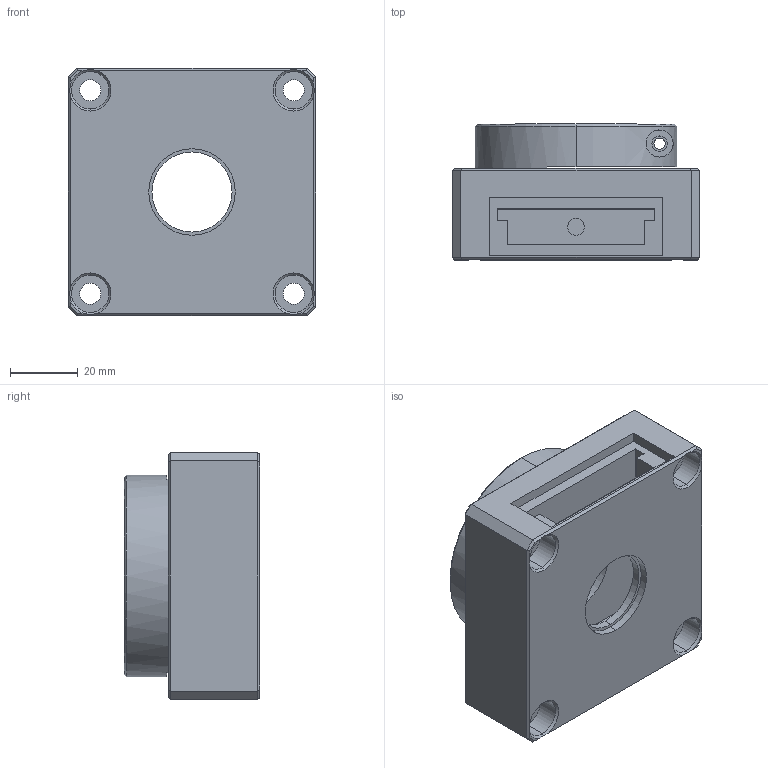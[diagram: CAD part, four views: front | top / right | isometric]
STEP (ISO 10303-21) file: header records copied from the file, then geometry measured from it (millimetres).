
FILE_DESCRIPTION (( 'STEP AP214' ), '1' );
FILE_NAME ('2019_miCube_Thorlabs Tube Lens holder Assembly.STEP', '2019-05-27T07:35:56', ( '' ), ( '' ), 'SwSTEP 2.0', 'SolidWorks 2017', '' );
FILE_SCHEMA (( 'AUTOMOTIVE_DESIGN' ));
Length unit declared in the file: millimetre
Products named in the file (2): 2019_miCube_Thorlabs Tube Lens holder Assembly; Tube Lens Holder Thorlabs
Assembly tree (1 placements, depth 2):
  2019_miCube_Thorlabs Tube Lens holder Assembly
    Tube Lens Holder Thorlabs
Bounding box: 73 x 40 x 73 mm (x, y, z)
Volume: 119738.8 mm3; surface area: 33755.9 mm2
Topology: 1 solids, 1 shells, 120 faces, 302 edges, 192 vertices
Faces by surface type: plane 67, cylinder 39, cone 14
Entity records: 3782 total; most frequent: CARTESIAN_POINT 766, DIRECTION 630, ORIENTED_EDGE 604, EDGE_CURVE 302, AXIS2_PLACEMENT_3D 226, VERTEX_POINT 192, LINE 178, VECTOR 178
